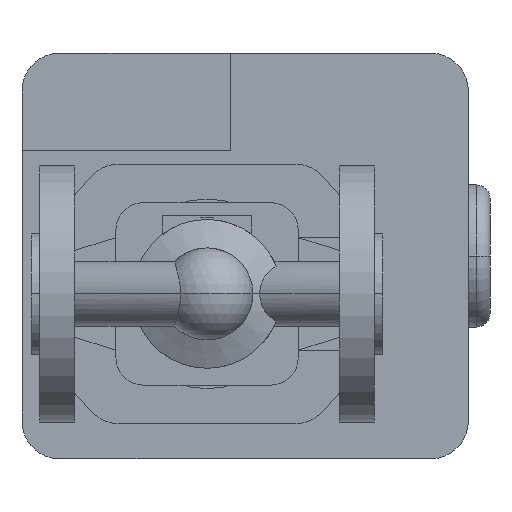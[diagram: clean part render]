
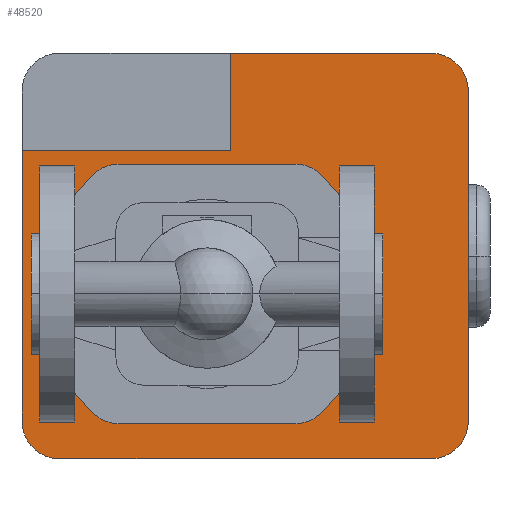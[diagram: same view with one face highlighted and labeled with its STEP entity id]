
A CAD part, front view. The second image highlights one B-rep face of the part: STEP entity #48520.
In plain terms, the highlighted planar face has unit normal (0, -1, 0).
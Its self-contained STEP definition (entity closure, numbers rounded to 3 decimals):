
#34250=CARTESIAN_POINT('',(124.96,305.,11.216));
#34260=VERTEX_POINT('',#34250);
#34290=CARTESIAN_POINT('',(115.,305.,0.));
#34300=DIRECTION('',(0.,1.,0.));
#34310=DIRECTION('',(0.,0.,1.));
#34320=AXIS2_PLACEMENT_3D('',#34290,#34300,#34310);
#34330=CIRCLE('',#34320,15.);
#34340=CARTESIAN_POINT('',(124.96,305.,-11.216));
#34350=VERTEX_POINT('',#34340);
#34360=EDGE_CURVE('',#34260,#34350,#34330,.T.);
#37080=CARTESIAN_POINT('',(107.116,305.,44.128));
#37090=VERTEX_POINT('',#37080);
#37120=CARTESIAN_POINT('',(65.,305.,0.));
#37130=DIRECTION('',(0.,1.,0.));
#37140=DIRECTION('',(0.69,0.,0.723));
#37150=AXIS2_PLACEMENT_3D('',#37120,#37130,#37140);
#37160=CIRCLE('',#37150,61.);
#37170=EDGE_CURVE('',#37090,#34260,#37160,.T.);
#37560=CARTESIAN_POINT('',(5.04,305.,-11.216));
#37570=VERTEX_POINT('',#37560);
#37600=CARTESIAN_POINT('',(15.,305.,0.));
#37610=DIRECTION('',(0.,1.,0.));
#37620=DIRECTION('',(0.,0.,-1.));
#37630=AXIS2_PLACEMENT_3D('',#37600,#37610,#37620);
#37640=CIRCLE('',#37630,15.);
#37650=CARTESIAN_POINT('',(5.04,305.,11.216));
#37660=VERTEX_POINT('',#37650);
#37670=EDGE_CURVE('',#37570,#37660,#37640,.T.);
#38660=CARTESIAN_POINT('',(22.884,305.,-44.128));
#38670=VERTEX_POINT('',#38660);
#38700=CARTESIAN_POINT('',(65.,305.,0.));
#38710=DIRECTION('',(0.,1.,0.));
#38720=DIRECTION('',(-0.69,0.,-0.723));
#38730=AXIS2_PLACEMENT_3D('',#38700,#38710,#38720);
#38740=CIRCLE('',#38730,61.);
#38750=EDGE_CURVE('',#38670,#37570,#38740,.T.);
#41060=CARTESIAN_POINT('',(161.6,305.,75.));
#41070=VERTEX_POINT('',#41060);
#41120=CARTESIAN_POINT('',(147.6,305.,75.));
#41130=DIRECTION('',(0.,1.,0.));
#41140=DIRECTION('',(0.,0.,1.));
#41150=AXIS2_PLACEMENT_3D('',#41120,#41130,#41140);
#41160=CIRCLE('',#41150,14.);
#41170=CARTESIAN_POINT('',(147.6,305.,89.));
#41180=VERTEX_POINT('',#41170);
#41190=EDGE_CURVE('',#41180,#41070,#41160,.T.);
#44780=CARTESIAN_POINT('',(147.6,305.,-61.));
#44790=VERTEX_POINT('',#44780);
#44820=CARTESIAN_POINT('',(147.6,305.,-47.));
#44830=DIRECTION('',(0.,1.,0.));
#44840=DIRECTION('',(1.,0.,0.));
#44850=AXIS2_PLACEMENT_3D('',#44820,#44830,#44840);
#44860=CIRCLE('',#44850,14.);
#44870=CARTESIAN_POINT('',(161.6,305.,-47.));
#44880=VERTEX_POINT('',#44870);
#44890=EDGE_CURVE('',#44880,#44790,#44860,.T.);
#45530=CARTESIAN_POINT('',(161.6,305.,75.));
#45540=DIRECTION('',(0.,0.,-1.));
#45550=VECTOR('',#45540,1.);
#45560=LINE('',#45530,#45550);
#45570=EDGE_CURVE('',#41070,#44880,#45560,.T.);
#45890=CARTESIAN_POINT('',(22.884,305.,44.128));
#45900=VERTEX_POINT('',#45890);
#45930=CARTESIAN_POINT('',(32.55,305.,34.));
#45940=DIRECTION('',(0.,1.,0.));
#45950=DIRECTION('',(-0.69,0.,0.723));
#45960=AXIS2_PLACEMENT_3D('',#45930,#45940,#45950);
#45970=CIRCLE('',#45960,14.);
#45980=CARTESIAN_POINT('',(32.55,305.,48.));
#45990=VERTEX_POINT('',#45980);
#46000=EDGE_CURVE('',#45900,#45990,#45970,.T.);
#46180=CARTESIAN_POINT('',(48.775,305.,48.));
#46190=DIRECTION('',(1.,0.,0.));
#46200=VECTOR('',#46190,1.);
#46210=LINE('',#46180,#46200);
#46220=CARTESIAN_POINT('',(97.45,305.,48.));
#46230=VERTEX_POINT('',#46220);
#46240=EDGE_CURVE('',#45990,#46230,#46210,.T.);
#46420=CARTESIAN_POINT('',(97.45,305.,34.));
#46430=DIRECTION('',(0.,1.,0.));
#46440=DIRECTION('',(0.,0.,1.));
#46450=AXIS2_PLACEMENT_3D('',#46420,#46430,#46440);
#46460=CIRCLE('',#46450,14.);
#46470=EDGE_CURVE('',#46230,#37090,#46460,.T.);
#46590=CARTESIAN_POINT('',(65.,305.,0.));
#46600=DIRECTION('',(0.,1.,0.));
#46610=DIRECTION('',(0.69,0.,0.723));
#46620=AXIS2_PLACEMENT_3D('',#46590,#46600,#46610);
#46630=CIRCLE('',#46620,61.);
#46640=CARTESIAN_POINT('',(107.116,305.,-44.128));
#46650=VERTEX_POINT('',#46640);
#46660=EDGE_CURVE('',#34350,#46650,#46630,.T.);
#46850=CARTESIAN_POINT('',(97.45,305.,-34.));
#46860=DIRECTION('',(0.,1.,0.));
#46870=DIRECTION('',(0.69,0.,-0.723));
#46880=AXIS2_PLACEMENT_3D('',#46850,#46860,#46870);
#46890=CIRCLE('',#46880,14.);
#46900=CARTESIAN_POINT('',(97.45,305.,-48.));
#46910=VERTEX_POINT('',#46900);
#46920=EDGE_CURVE('',#46650,#46910,#46890,.T.);
#47100=CARTESIAN_POINT('',(81.225,305.,-48.));
#47110=DIRECTION('',(-1.,0.,0.));
#47120=VECTOR('',#47110,1.);
#47130=LINE('',#47100,#47120);
#47140=CARTESIAN_POINT('',(32.55,305.,-48.));
#47150=VERTEX_POINT('',#47140);
#47160=EDGE_CURVE('',#46910,#47150,#47130,.T.);
#47340=CARTESIAN_POINT('',(32.55,305.,-34.));
#47350=DIRECTION('',(0.,1.,0.));
#47360=DIRECTION('',(0.,0.,-1.));
#47370=AXIS2_PLACEMENT_3D('',#47340,#47350,#47360);
#47380=CIRCLE('',#47370,14.);
#47390=EDGE_CURVE('',#47150,#38670,#47380,.T.);
#47510=CARTESIAN_POINT('',(65.,305.,0.));
#47520=DIRECTION('',(0.,1.,0.));
#47530=DIRECTION('',(-0.69,0.,-0.723));
#47540=AXIS2_PLACEMENT_3D('',#47510,#47520,#47530);
#47550=CIRCLE('',#47540,61.);
#47560=EDGE_CURVE('',#37660,#45900,#47550,.T.);
#47730=CARTESIAN_POINT('',(10.6,305.,-61.));
#47740=VERTEX_POINT('',#47730);
#47770=CARTESIAN_POINT('',(147.6,305.,-61.));
#47780=DIRECTION('',(-1.,0.,0.));
#47790=VECTOR('',#47780,1.);
#47800=LINE('',#47770,#47790);
#47810=EDGE_CURVE('',#44790,#47740,#47800,.T.);
#47880=CARTESIAN_POINT('',(65.,305.,0.));
#47890=DIRECTION('',(0.,1.,0.));
#47900=DIRECTION('',(0.,0.,1.));
#47910=AXIS2_PLACEMENT_3D('',#47880,#47890,#47900);
#47920=PLANE('',#47910);
#47930=ORIENTED_EDGE('',*,*,#37170,.T.);
#47940=ORIENTED_EDGE('',*,*,#46470,.T.);
#47950=ORIENTED_EDGE('',*,*,#46240,.T.);
#47960=ORIENTED_EDGE('',*,*,#46000,.T.);
#47970=ORIENTED_EDGE('',*,*,#47560,.T.);
#47980=ORIENTED_EDGE('',*,*,#37670,.T.);
#47990=ORIENTED_EDGE('',*,*,#38750,.T.);
#48000=ORIENTED_EDGE('',*,*,#47390,.T.);
#48010=ORIENTED_EDGE('',*,*,#47160,.T.);
#48020=ORIENTED_EDGE('',*,*,#46920,.T.);
#48030=ORIENTED_EDGE('',*,*,#46660,.T.);
#48040=ORIENTED_EDGE('',*,*,#34360,.T.);
#48050=EDGE_LOOP('',(#48040,#48030,#48020,#48010,#48000,#47990,#47980,
#47970,#47960,#47950,#47940,#47930));
#48060=FACE_BOUND('',#48050,.T.);
#48070=CARTESIAN_POINT('',(73.6,305.,26.5));
#48080=DIRECTION('',(0.,0.,-1.));
#48090=VECTOR('',#48080,1.);
#48100=LINE('',#48070,#48090);
#48110=CARTESIAN_POINT('',(73.6,305.,89.));
#48120=VERTEX_POINT('',#48110);
#48130=CARTESIAN_POINT('',(73.6,305.,53.));
#48140=VERTEX_POINT('',#48130);
#48150=EDGE_CURVE('',#48120,#48140,#48100,.T.);
#48160=ORIENTED_EDGE('',*,*,#48150,.T.);
#48170=CARTESIAN_POINT('',(10.6,305.,89.));
#48180=DIRECTION('',(1.,0.,0.));
#48190=VECTOR('',#48180,1.);
#48200=LINE('',#48170,#48190);
#48210=EDGE_CURVE('',#48120,#41180,#48200,.T.);
#48220=ORIENTED_EDGE('',*,*,#48210,.F.);
#48230=ORIENTED_EDGE('',*,*,#41190,.F.);
#48240=ORIENTED_EDGE('',*,*,#45570,.F.);
#48250=ORIENTED_EDGE('',*,*,#44890,.F.);
#48260=ORIENTED_EDGE('',*,*,#47810,.F.);
#48270=CARTESIAN_POINT('',(10.6,305.,-47.));
#48280=DIRECTION('',(0.,1.,0.));
#48290=DIRECTION('',(0.,0.,-1.));
#48300=AXIS2_PLACEMENT_3D('',#48270,#48280,#48290);
#48310=CIRCLE('',#48300,14.);
#48320=CARTESIAN_POINT('',(-3.4,305.,-47.));
#48330=VERTEX_POINT('',#48320);
#48340=EDGE_CURVE('',#47740,#48330,#48310,.T.);
#48350=ORIENTED_EDGE('',*,*,#48340,.F.);
#48360=CARTESIAN_POINT('',(-3.4,305.,-47.));
#48370=DIRECTION('',(0.,0.,1.));
#48380=VECTOR('',#48370,1.);
#48390=LINE('',#48360,#48380);
#48400=CARTESIAN_POINT('',(-3.4,305.,53.));
#48410=VERTEX_POINT('',#48400);
#48420=EDGE_CURVE('',#48330,#48410,#48390,.T.);
#48430=ORIENTED_EDGE('',*,*,#48420,.F.);
#48440=CARTESIAN_POINT('',(30.3,305.,53.));
#48450=DIRECTION('',(-1.,0.,0.));
#48460=VECTOR('',#48450,1.);
#48470=LINE('',#48440,#48460);
#48480=EDGE_CURVE('',#48140,#48410,#48470,.T.);
#48490=ORIENTED_EDGE('',*,*,#48480,.T.);
#48500=EDGE_LOOP('',(#48490,#48430,#48350,#48260,#48250,#48240,#48230,
#48220,#48160));
#48510=FACE_OUTER_BOUND('',#48500,.T.);
#48520=ADVANCED_FACE('',(#48060,#48510),#47920,.F.);
